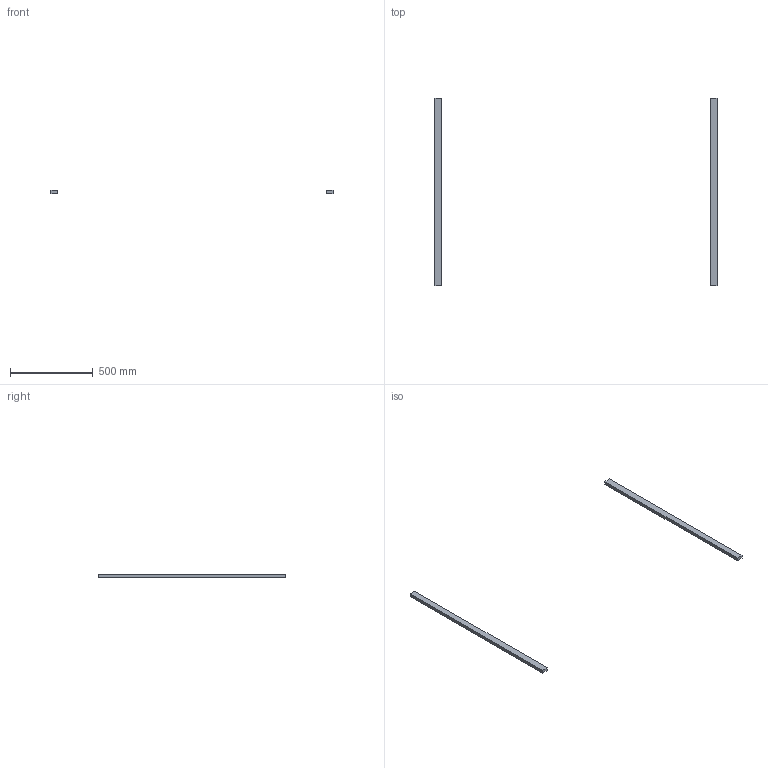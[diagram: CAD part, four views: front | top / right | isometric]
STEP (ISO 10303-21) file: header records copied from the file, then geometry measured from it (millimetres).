
FILE_DESCRIPTION(/* description */ (''),/* implementation_level */ '2;1');
FILE_NAME(/* name */ '1.frame-bottom#1.1#HFS5-2040-1130',/* time_stamp */ '2014-12-01T20:10:33+01:00',/* author */ (''),/* organization */ (''),/* preprocessor_version */ 'ST-DEVELOPER v14',/* originating_system */ '',/* authorisation */ '');
FILE_SCHEMA (('AUTOMOTIVE_DESIGN'));
Length unit declared in the file: millimetre
Products named in the file (1): Document
Bounding box: 1700 x 1130 x 20 mm (x, y, z)
Volume: 1808000 mm3; surface area: 274400 mm2
Topology: 2 solids, 2 shells, 12 faces, 24 edges, 16 vertices
Faces by surface type: plane 12
Entity records: 571 total; most frequent: CARTESIAN_POINT 174, B_SPLINE_CURVE_WITH_KNOTS 72, ORIENTED_EDGE 48, PCURVE 48, DEFINITIONAL_REPRESENTATION 48, SURFACE_CURVE 24, EDGE_CURVE 24, VERTEX_POINT 16
